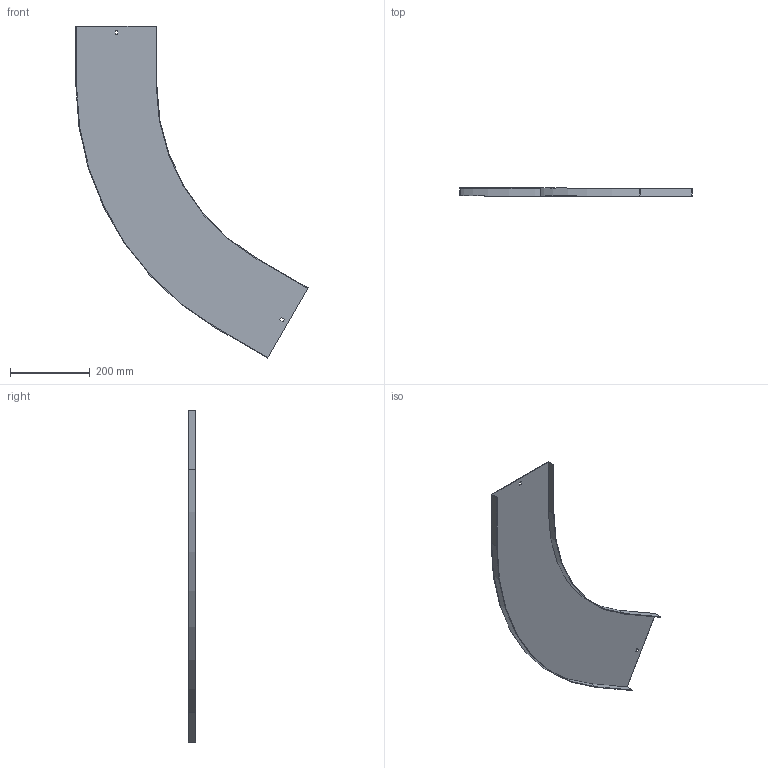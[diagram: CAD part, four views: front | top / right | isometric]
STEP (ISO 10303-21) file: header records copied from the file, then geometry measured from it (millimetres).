
FILE_DESCRIPTION (( 'STEP AP214' ), '1' );
FILE_NAME ('13N5R200.step', '2025-02-21T10:51:32', ( '' ), ( '' ), 'SwSTEP 2.0', 'SolidWorks 2023', '' );
FILE_SCHEMA (( 'AUTOMOTIVE_DESIGN' ));
Length unit declared in the file: millimetre
Products named in the file (1): 13N5R200
Bounding box: 582.15 x 20 x 832.52 mm (x, y, z)
Volume: 334019.2 mm3; surface area: 448956.9 mm2
Topology: 1 solids, 1 shells, 26 faces, 72 edges, 48 vertices
Faces by surface type: plane 22, cylinder 4
Entity records: 855 total; most frequent: CARTESIAN_POINT 147, ORIENTED_EDGE 144, DIRECTION 134, EDGE_CURVE 72, LINE 64, VECTOR 64, VERTEX_POINT 48, AXIS2_PLACEMENT_3D 35
